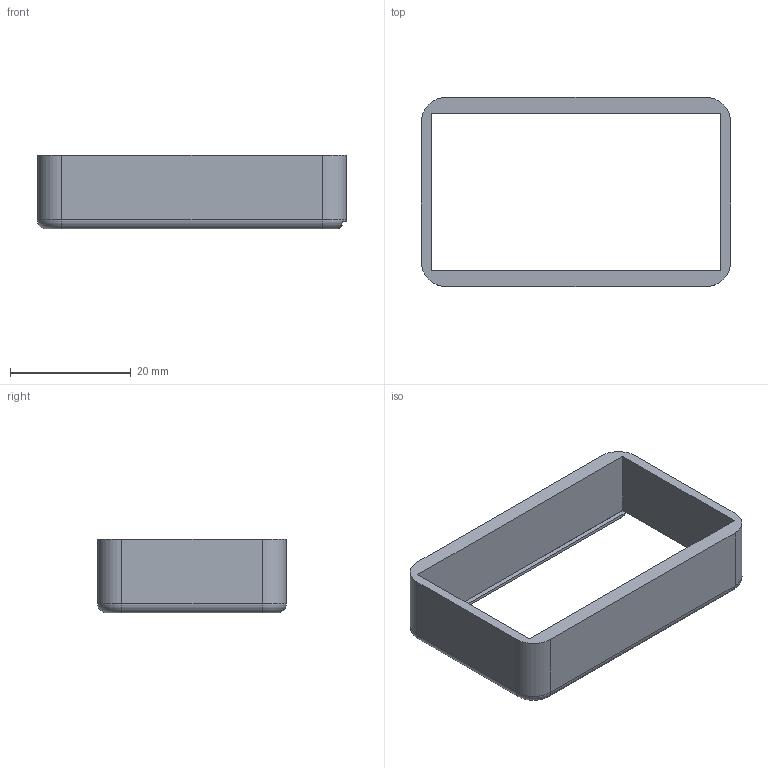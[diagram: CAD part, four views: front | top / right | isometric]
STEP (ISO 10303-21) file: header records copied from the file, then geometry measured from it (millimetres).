
FILE_DESCRIPTION(('Open CASCADE Model'),'2;1');
FILE_NAME('Open CASCADE Shape Model','2026-10-28T10:02:06',('Author'),( 'Open CASCADE'),'Open CASCADE STEP processor 7.7','Open CASCADE 7.7' ,'Unknown');
FILE_SCHEMA(('AUTOMOTIVE_DESIGN { 1 0 10303 214 1 1 1 1 }'));
Length unit declared in the file: millimetre
Products named in the file (1): SOLID
Bounding box: 51.2 x 31.3 x 12.25 mm (x, y, z)
Volume: 3936.9 mm3; surface area: 4428.4 mm2
Topology: 1 solids, 1 shells, 41 faces, 104 edges, 64 vertices
Faces by surface type: plane 29, cylinder 8, torus 4
Entity records: 3280 total; most frequent: CARTESIAN_POINT 1330, DIRECTION 322, ORIENTED_EDGE 208, PCURVE 208, DEFINITIONAL_REPRESENTATION 208, LINE 178, VECTOR 178, EDGE_CURVE 104
